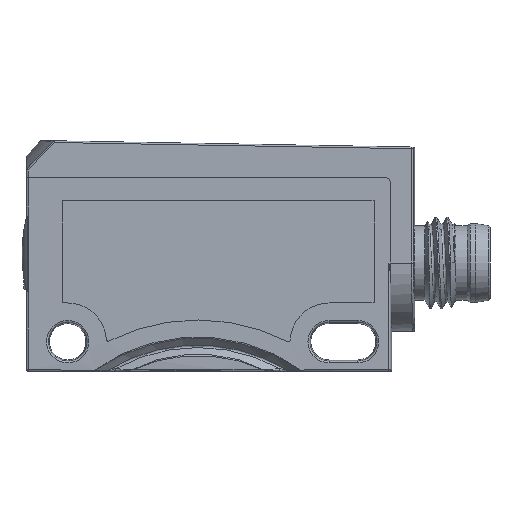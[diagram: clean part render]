
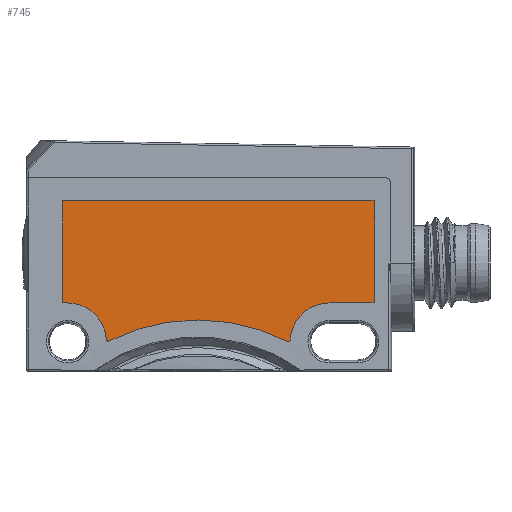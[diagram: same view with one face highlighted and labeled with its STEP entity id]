
A CAD part, left-side view. The second image highlights one B-rep face of the part: STEP entity #745.
In plain terms, the highlighted planar face has unit normal (-1, 0, 0).
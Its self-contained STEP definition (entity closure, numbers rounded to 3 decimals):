
#745=ADVANCED_FACE('',(#902),#817,.F.);
#817=PLANE('',#3074);
#902=FACE_OUTER_BOUND('',#1092,.T.);
#1092=EDGE_LOOP('',(#1913,#1914,#1915,#1916,#1917,#1918,#1919,#1920,#1921,
#1922,#1923,#1924,#1925,#1926));
#1257=LINE('',#5608,#1398);
#1260=LINE('',#5616,#1401);
#1263=LINE('',#5624,#1404);
#1272=LINE('',#5652,#1413);
#1273=LINE('',#5653,#1414);
#1398=VECTOR('',#3666,1.);
#1401=VECTOR('',#3675,1.);
#1404=VECTOR('',#3684,1.);
#1413=VECTOR('',#3715,1.);
#1414=VECTOR('',#3716,1.);
#1913=ORIENTED_EDGE('',*,*,#2632,.T.);
#1914=ORIENTED_EDGE('',*,*,#2657,.T.);
#1915=ORIENTED_EDGE('',*,*,#2654,.T.);
#1916=ORIENTED_EDGE('',*,*,#2658,.T.);
#1917=ORIENTED_EDGE('',*,*,#2652,.T.);
#1918=ORIENTED_EDGE('',*,*,#2650,.T.);
#1919=ORIENTED_EDGE('',*,*,#2648,.T.);
#1920=ORIENTED_EDGE('',*,*,#2645,.T.);
#1921=ORIENTED_EDGE('',*,*,#2659,.T.);
#1922=ORIENTED_EDGE('',*,*,#2643,.T.);
#1923=ORIENTED_EDGE('',*,*,#2641,.T.);
#1924=ORIENTED_EDGE('',*,*,#2639,.T.);
#1925=ORIENTED_EDGE('',*,*,#2637,.T.);
#1926=ORIENTED_EDGE('',*,*,#2635,.T.);
#2309=VERTEX_POINT('',#5603);
#2310=VERTEX_POINT('',#5604);
#2311=VERTEX_POINT('',#5609);
#2312=VERTEX_POINT('',#5613);
#2313=VERTEX_POINT('',#5617);
#2314=VERTEX_POINT('',#5621);
#2315=VERTEX_POINT('',#5625);
#2316=VERTEX_POINT('',#5629);
#2317=VERTEX_POINT('',#5630);
#2318=VERTEX_POINT('',#5635);
#2319=VERTEX_POINT('',#5639);
#2320=VERTEX_POINT('',#5643);
#2321=VERTEX_POINT('',#5647);
#2322=VERTEX_POINT('',#5648);
#2632=EDGE_CURVE('',#2309,#2310,#2820,.T.);
#2635=EDGE_CURVE('',#2311,#2309,#1257,.T.);
#2637=EDGE_CURVE('',#2312,#2311,#2821,.T.);
#2639=EDGE_CURVE('',#2313,#2312,#1260,.T.);
#2641=EDGE_CURVE('',#2314,#2313,#2822,.T.);
#2643=EDGE_CURVE('',#2315,#2314,#1263,.T.);
#2645=EDGE_CURVE('',#2316,#2317,#2823,.T.);
#2648=EDGE_CURVE('',#2318,#2316,#2824,.T.);
#2650=EDGE_CURVE('',#2319,#2318,#2825,.T.);
#2652=EDGE_CURVE('',#2320,#2319,#2826,.T.);
#2654=EDGE_CURVE('',#2321,#2322,#2827,.T.);
#2657=EDGE_CURVE('',#2310,#2321,#1272,.T.);
#2658=EDGE_CURVE('',#2322,#2320,#1273,.T.);
#2659=EDGE_CURVE('',#2317,#2315,#2828,.T.);
#2820=CIRCLE('',#3054,0.15);
#2821=CIRCLE('',#3057,0.15);
#2822=CIRCLE('',#3060,0.15);
#2823=CIRCLE('',#3063,0.15);
#2824=CIRCLE('',#3065,17.312);
#2825=CIRCLE('',#3067,0.15);
#2826=CIRCLE('',#3069,3.4);
#2827=CIRCLE('',#3071,0.15);
#2828=CIRCLE('',#3073,3.4);
#3054=AXIS2_PLACEMENT_3D('',#5602,#3660,#3661);
#3057=AXIS2_PLACEMENT_3D('',#5612,#3670,#3671);
#3060=AXIS2_PLACEMENT_3D('',#5620,#3679,#3680);
#3063=AXIS2_PLACEMENT_3D('',#5628,#3688,#3689);
#3065=AXIS2_PLACEMENT_3D('',#5634,#3694,#3695);
#3067=AXIS2_PLACEMENT_3D('',#5638,#3699,#3700);
#3069=AXIS2_PLACEMENT_3D('',#5642,#3704,#3705);
#3071=AXIS2_PLACEMENT_3D('',#5646,#3709,#3710);
#3073=AXIS2_PLACEMENT_3D('',#5654,#3717,#3718);
#3074=AXIS2_PLACEMENT_3D('',#5655,#3719,#3720);
#3660=DIRECTION('',(-1.,0.,0.));
#3661=DIRECTION('',(0.,0.707,0.707));
#3666=DIRECTION('',(0.,1.,0.));
#3670=DIRECTION('',(-1.,0.,0.));
#3671=DIRECTION('',(0.,-0.707,0.707));
#3675=DIRECTION('',(0.,0.,1.));
#3679=DIRECTION('',(-1.,0.,0.));
#3680=DIRECTION('',(0.,-0.707,-0.707));
#3684=DIRECTION('',(0.,-1.,0.));
#3688=DIRECTION('',(-1.,0.,0.));
#3689=DIRECTION('',(0.,-0.504,-0.864));
#3694=DIRECTION('',(1.,0.,0.));
#3695=DIRECTION('',(0.,-0.468,0.884));
#3699=DIRECTION('',(-1.,0.,0.));
#3700=DIRECTION('',(0.,0.501,-0.866));
#3704=DIRECTION('',(1.,0.,0.));
#3705=DIRECTION('',(0.,-1.,-0.014));
#3709=DIRECTION('',(-1.,0.,0.));
#3710=DIRECTION('',(0.,0.707,-0.707));
#3715=DIRECTION('',(0.,0.,-1.));
#3716=DIRECTION('',(0.,-1.,0.));
#3717=DIRECTION('',(1.,0.,0.));
#3718=DIRECTION('',(0.,0.,1.));
#3719=DIRECTION('',(1.,0.,0.));
#3720=DIRECTION('',(0.,0.,1.));
#5602=CARTESIAN_POINT('',(-5.8,12.7,7.35));
#5603=CARTESIAN_POINT('',(-5.8,12.7,7.5));
#5604=CARTESIAN_POINT('',(-5.8,12.85,7.35));
#5608=CARTESIAN_POINT('',(-5.8,-14.35,7.5));
#5609=CARTESIAN_POINT('',(-5.8,-14.35,7.5));
#5612=CARTESIAN_POINT('',(-5.8,-14.35,7.35));
#5613=CARTESIAN_POINT('',(-5.8,-14.5,7.35));
#5616=CARTESIAN_POINT('',(-5.8,-14.5,-1.35));
#5617=CARTESIAN_POINT('',(-5.8,-14.5,-1.35));
#5620=CARTESIAN_POINT('',(-5.8,-14.35,-1.35));
#5621=CARTESIAN_POINT('',(-5.8,-14.35,-1.5));
#5624=CARTESIAN_POINT('',(-5.8,-10.5,-1.5));
#5625=CARTESIAN_POINT('',(-5.8,-10.5,-1.5));
#5628=CARTESIAN_POINT('',(-5.8,-6.953,-4.754));
#5629=CARTESIAN_POINT('',(-5.8,-6.885,-4.888));
#5630=CARTESIAN_POINT('',(-5.8,-7.103,-4.76));
#5634=CARTESIAN_POINT('',(-5.8,1.,-20.3));
#5635=CARTESIAN_POINT('',(-5.8,8.788,-4.838));
#5638=CARTESIAN_POINT('',(-5.8,8.855,-4.705));
#5639=CARTESIAN_POINT('',(-5.8,9.005,-4.713));
#5642=CARTESIAN_POINT('',(-5.8,12.4,-4.9));
#5643=CARTESIAN_POINT('',(-5.8,12.4,-1.5));
#5646=CARTESIAN_POINT('',(-5.8,12.7,-1.35));
#5647=CARTESIAN_POINT('',(-5.8,12.85,-1.35));
#5648=CARTESIAN_POINT('',(-5.8,12.7,-1.5));
#5652=CARTESIAN_POINT('',(-5.8,12.85,7.35));
#5653=CARTESIAN_POINT('',(-5.8,12.7,-1.5));
#5654=CARTESIAN_POINT('',(-5.8,-10.5,-4.9));
#5655=CARTESIAN_POINT('',(-5.8,-0.724,2.049));
